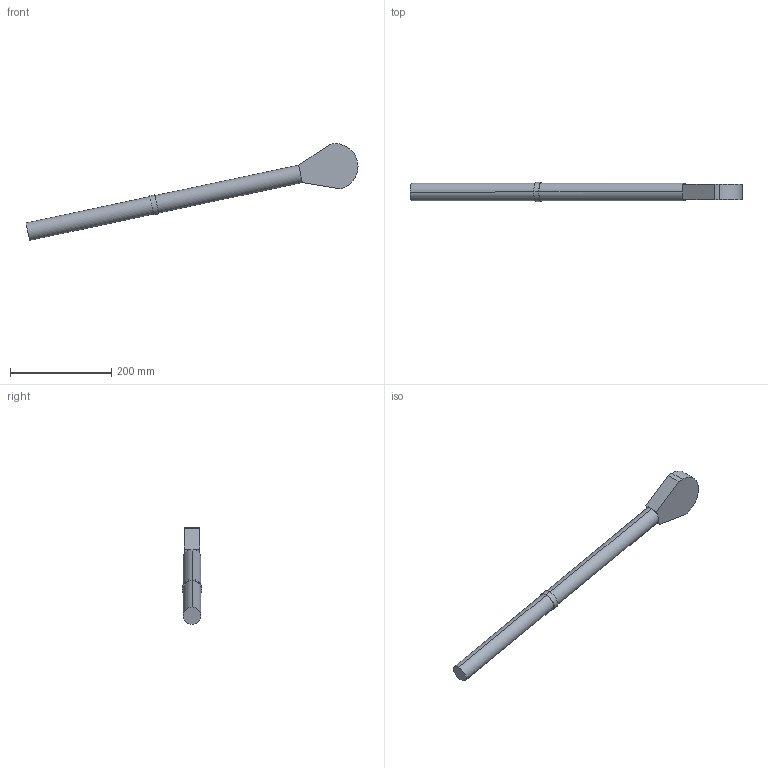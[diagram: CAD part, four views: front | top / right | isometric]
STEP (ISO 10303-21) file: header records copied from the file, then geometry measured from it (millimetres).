
FILE_DESCRIPTION (( 'STEP AP214' ), '1' );
FILE_NAME ('IRB4400_60-195_IRC5_rev02_BAL-B_CAD.STEP', '2016-11-03T06:03:38', ( 'ABB' ), ( 'ABB' ), 'SwSTEP 2.0', 'SolidWorks 2014', '' );
FILE_SCHEMA (( 'AUTOMOTIVE_DESIGN' ));
Length unit declared in the file: millimetre
Products named in the file (1): IRB4400_60-195_IRC5_rev02_BAL-B_CAD
Bounding box: 655.13 x 38 x 190.79 mm (x, y, z)
Volume: 744991.5 mm3; surface area: 87207.9 mm2
Topology: 1 solids, 1 shells, 24 faces, 49 edges, 30 vertices
Faces by surface type: plane 14, cylinder 10
Entity records: 722 total; most frequent: DIRECTION 123, CARTESIAN_POINT 104, ORIENTED_EDGE 98, AXIS2_PLACEMENT_3D 49, EDGE_CURVE 49, VERTEX_POINT 30, EDGE_LOOP 27, LINE 25
